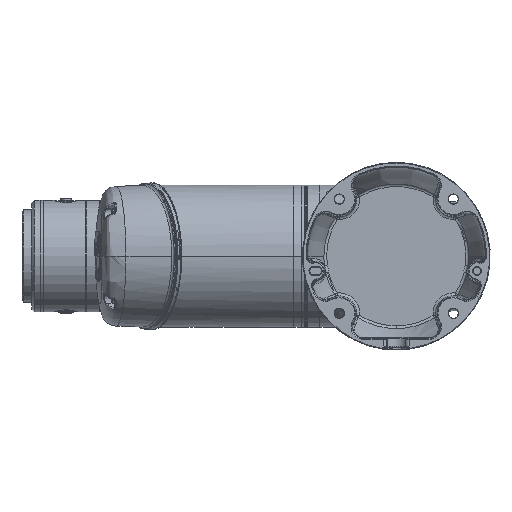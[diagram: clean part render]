
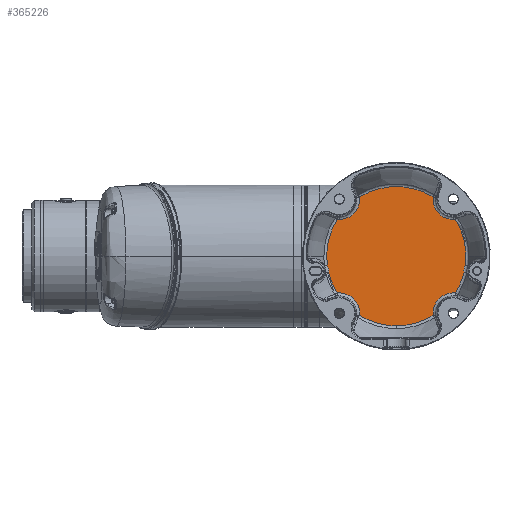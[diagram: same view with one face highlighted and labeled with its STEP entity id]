
A CAD part, front view. The second image highlights one B-rep face of the part: STEP entity #365226.
In plain terms, the highlighted planar face has unit normal (0, -1, 0).
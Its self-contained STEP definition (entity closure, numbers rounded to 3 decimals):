
#360 = CIRCLE ( 'NONE', #270757, 13.899 ) ;
#2383 = VERTEX_POINT ( 'NONE', #306100 ) ;
#6561 = AXIS2_PLACEMENT_3D ( 'NONE', #166688, #466886, #353194 ) ;
#7295 = CARTESIAN_POINT ( 'NONE',  ( -55., 53.5, -10. ) ) ;
#24731 = CIRCLE ( 'NONE', #206046, 8.899 ) ;
#29071 = VERTEX_POINT ( 'NONE', #139984 ) ;
#50845 = CARTESIAN_POINT ( 'NONE',  ( 55., 53.5, -10. ) ) ;
#59967 = DIRECTION ( 'NONE',  ( 0., -1., 0. ) ) ;
#63369 = EDGE_CURVE ( 'NONE', #351116, #29071, #410674, .T. ) ;
#66236 = CIRCLE ( 'NONE', #91622, 13.899 ) ;
#66815 = CARTESIAN_POINT ( 'NONE',  ( -25.062, 53.5, -40.292 ) ) ;
#88908 = EDGE_CURVE ( 'NONE', #144137, #278789, #333123, .T. ) ;
#91622 = AXIS2_PLACEMENT_3D ( 'NONE', #263240, #189030, #259982 ) ;
#94265 = CARTESIAN_POINT ( 'NONE',  ( 38.891, 53.5, 24.992 ) ) ;
#98722 = ORIENTED_EDGE ( 'NONE', *, *, #276287, .T. ) ;
#100998 = CARTESIAN_POINT ( 'NONE',  ( 0., 53.5, 0. ) ) ;
#106171 = DIRECTION ( 'NONE',  ( 0., 0., -1. ) ) ;
#118395 = DIRECTION ( 'NONE',  ( 0., 1., 0. ) ) ;
#121427 = CIRCLE ( 'NONE', #424465, 47.451 ) ;
#126447 = ORIENTED_EDGE ( 'NONE', *, *, #63369, .T. ) ;
#129165 = DIRECTION ( 'NONE',  ( 0., -1., 0. ) ) ;
#130990 = VERTEX_POINT ( 'NONE', #438270 ) ;
#133452 = DIRECTION ( 'NONE',  ( 0., -1., 0. ) ) ;
#133871 = DIRECTION ( 'NONE',  ( 0., 1., 0. ) ) ;
#134061 = DIRECTION ( 'NONE',  ( 0., 0., -1. ) ) ;
#139984 = CARTESIAN_POINT ( 'NONE',  ( -25.062, 53.5, 40.292 ) ) ;
#144137 = VERTEX_POINT ( 'NONE', #284946 ) ;
#152430 = AXIS2_PLACEMENT_3D ( 'NONE', #344385, #118395, #382334 ) ;
#157237 = AXIS2_PLACEMENT_3D ( 'NONE', #100998, #396349, #134061 ) ;
#164494 = CARTESIAN_POINT ( 'NONE',  ( -38.891, 53.5, 38.891 ) ) ;
#164731 = CIRCLE ( 'NONE', #424669, 47.451 ) ;
#166542 = CIRCLE ( 'NONE', #6561, 13.899 ) ;
#166688 = CARTESIAN_POINT ( 'NONE',  ( 38.891, 53.5, -38.891 ) ) ;
#167558 = CARTESIAN_POINT ( 'NONE',  ( 0., 53.5, 0. ) ) ;
#169385 = DIRECTION ( 'NONE',  ( 0., 0., -1. ) ) ;
#169602 = ORIENTED_EDGE ( 'NONE', *, *, #281949, .T. ) ;
#170152 = DIRECTION ( 'NONE',  ( 0., 0., -1. ) ) ;
#170472 = CARTESIAN_POINT ( 'NONE',  ( 0., 53.5, 0. ) ) ;
#174820 = VERTEX_POINT ( 'NONE', #94265 ) ;
#182752 = CIRCLE ( 'NONE', #251742, 47.451 ) ;
#189030 = DIRECTION ( 'NONE',  ( 0., 1., 0. ) ) ;
#189163 = DIRECTION ( 'NONE',  ( 0., 0., -1. ) ) ;
#202520 = EDGE_CURVE ( 'NONE', #235149, #174820, #390183, .T. ) ;
#203347 = CARTESIAN_POINT ( 'NONE',  ( 0., 53.5, 0. ) ) ;
#206046 = AXIS2_PLACEMENT_3D ( 'NONE', #50845, #352679, #169385 ) ;
#206139 = CARTESIAN_POINT ( 'NONE',  ( -38.891, 53.5, 38.891 ) ) ;
#207850 = AXIS2_PLACEMENT_3D ( 'NONE', #415188, #420075, #189163 ) ;
#208365 = DIRECTION ( 'NONE',  ( 0., 0., -1. ) ) ;
#208725 = CARTESIAN_POINT ( 'NONE',  ( 0., 53.5, -47.451 ) ) ;
#214852 = VERTEX_POINT ( 'NONE', #301229 ) ;
#217889 = EDGE_CURVE ( 'NONE', #214852, #235149, #305138, .T. ) ;
#220823 = EDGE_CURVE ( 'NONE', #174820, #351116, #66236, .T. ) ;
#221118 = ORIENTED_EDGE ( 'NONE', *, *, #439455, .T. ) ;
#222377 = EDGE_CURVE ( 'NONE', #322488, #453713, #166542, .T. ) ;
#226140 = ORIENTED_EDGE ( 'NONE', *, *, #260788, .T. ) ;
#226835 = ORIENTED_EDGE ( 'NONE', *, *, #220823, .T. ) ;
#228224 = ORIENTED_EDGE ( 'NONE', *, *, #217889, .T. ) ;
#230463 = EDGE_CURVE ( 'NONE', #384457, #384185, #164731, .T. ) ;
#230810 = CARTESIAN_POINT ( 'NONE',  ( 25.062, 53.5, 40.292 ) ) ;
#235149 = VERTEX_POINT ( 'NONE', #457978 ) ;
#235705 = ORIENTED_EDGE ( 'NONE', *, *, #230463, .T. ) ;
#243924 = PLANE ( 'NONE',  #409373 ) ;
#249811 = CARTESIAN_POINT ( 'NONE',  ( -47.077, 53.5, -5.948 ) ) ;
#251742 = AXIS2_PLACEMENT_3D ( 'NONE', #256181, #332085, #106171 ) ;
#253366 = EDGE_CURVE ( 'NONE', #2383, #214852, #24731, .T. ) ;
#254828 = CIRCLE ( 'NONE', #372427, 13.899 ) ;
#256181 = CARTESIAN_POINT ( 'NONE',  ( 0., 53.5, 0. ) ) ;
#259982 = DIRECTION ( 'NONE',  ( 0., 0., -1. ) ) ;
#260416 = DIRECTION ( 'NONE',  ( 0., 0., -1. ) ) ;
#260788 = EDGE_CURVE ( 'NONE', #453713, #2383, #182752, .T. ) ;
#261069 = AXIS2_PLACEMENT_3D ( 'NONE', #7295, #384854, #346930 ) ;
#263240 = CARTESIAN_POINT ( 'NONE',  ( 38.891, 53.5, 38.891 ) ) ;
#270757 = AXIS2_PLACEMENT_3D ( 'NONE', #206139, #315169, #353136 ) ;
#276287 = EDGE_CURVE ( 'NONE', #130990, #298034, #121427, .T. ) ;
#277250 = CARTESIAN_POINT ( 'NONE',  ( 40.292, 53.5, -25.062 ) ) ;
#278789 = VERTEX_POINT ( 'NONE', #249811 ) ;
#281361 = DIRECTION ( 'NONE',  ( 0., -1., 0. ) ) ;
#281949 = EDGE_CURVE ( 'NONE', #278789, #130990, #291293, .T. ) ;
#284946 = CARTESIAN_POINT ( 'NONE',  ( -40.292, 53.5, 25.062 ) ) ;
#291293 = CIRCLE ( 'NONE', #261069, 8.899 ) ;
#298034 = VERTEX_POINT ( 'NONE', #398210 ) ;
#301229 = CARTESIAN_POINT ( 'NONE',  ( 47.077, 53.5, -5.948 ) ) ;
#301938 = EDGE_CURVE ( 'NONE', #29071, #463807, #434889, .T. ) ;
#305138 = CIRCLE ( 'NONE', #207850, 47.451 ) ;
#306100 = CARTESIAN_POINT ( 'NONE',  ( 46.158, 53.5, -11.004 ) ) ;
#309707 = EDGE_LOOP ( 'NONE', ( #475776, #226140, #360339, #228224, #337167, #226835, #126447, #431356, #331790, #316029, #169602, #98722, #364659, #235705, #221118 ) ) ;
#315169 = DIRECTION ( 'NONE',  ( 0., 1., 0. ) ) ;
#316029 = ORIENTED_EDGE ( 'NONE', *, *, #88908, .T. ) ;
#320245 = CARTESIAN_POINT ( 'NONE',  ( -38.891, 53.5, -38.891 ) ) ;
#320369 = DIRECTION ( 'NONE',  ( 0., 0., -1. ) ) ;
#322488 = VERTEX_POINT ( 'NONE', #388469 ) ;
#331790 = ORIENTED_EDGE ( 'NONE', *, *, #344737, .T. ) ;
#332085 = DIRECTION ( 'NONE',  ( 0., -1., 0. ) ) ;
#333123 = CIRCLE ( 'NONE', #403885, 47.451 ) ;
#337167 = ORIENTED_EDGE ( 'NONE', *, *, #202520, .T. ) ;
#339548 = AXIS2_PLACEMENT_3D ( 'NONE', #355551, #350746, #390287 ) ;
#344385 = CARTESIAN_POINT ( 'NONE',  ( 38.891, 53.5, 38.891 ) ) ;
#344737 = EDGE_CURVE ( 'NONE', #463807, #144137, #360, .T. ) ;
#346930 = DIRECTION ( 'NONE',  ( 0., 0., -1. ) ) ;
#350746 = DIRECTION ( 'NONE',  ( 0., -1., 0. ) ) ;
#351116 = VERTEX_POINT ( 'NONE', #230810 ) ;
#352679 = DIRECTION ( 'NONE',  ( 0., 1., 0. ) ) ;
#353136 = DIRECTION ( 'NONE',  ( 0., 0., -1. ) ) ;
#353194 = DIRECTION ( 'NONE',  ( 0., 0., -1. ) ) ;
#355551 = CARTESIAN_POINT ( 'NONE',  ( 0., 53.5, 0. ) ) ;
#360339 = ORIENTED_EDGE ( 'NONE', *, *, #253366, .T. ) ;
#361840 = AXIS2_PLACEMENT_3D ( 'NONE', #164494, #428420, #260416 ) ;
#364659 = ORIENTED_EDGE ( 'NONE', *, *, #464473, .T. ) ;
#365226 = ADVANCED_FACE ( 'NONE', ( #426653 ), #243924, .T. ) ;
#372427 = AXIS2_PLACEMENT_3D ( 'NONE', #320245, #133871, #170152 ) ;
#382334 = DIRECTION ( 'NONE',  ( 0., 0., -1. ) ) ;
#384185 = VERTEX_POINT ( 'NONE', #208725 ) ;
#384457 = VERTEX_POINT ( 'NONE', #66815 ) ;
#384854 = DIRECTION ( 'NONE',  ( 0., 1., 0. ) ) ;
#388469 = CARTESIAN_POINT ( 'NONE',  ( 25.062, 53.5, -40.292 ) ) ;
#390183 = CIRCLE ( 'NONE', #152430, 13.899 ) ;
#390287 = DIRECTION ( 'NONE',  ( 0., 0., -1. ) ) ;
#396349 = DIRECTION ( 'NONE',  ( 0., -1., 0. ) ) ;
#398210 = CARTESIAN_POINT ( 'NONE',  ( -40.292, 53.5, -25.062 ) ) ;
#403885 = AXIS2_PLACEMENT_3D ( 'NONE', #170472, #59967, #208365 ) ;
#409373 = AXIS2_PLACEMENT_3D ( 'NONE', #473118, #133452, #433621 ) ;
#410674 = CIRCLE ( 'NONE', #339548, 47.451 ) ;
#415188 = CARTESIAN_POINT ( 'NONE',  ( 0., 53.5, 0. ) ) ;
#420075 = DIRECTION ( 'NONE',  ( 0., -1., 0. ) ) ;
#424465 = AXIS2_PLACEMENT_3D ( 'NONE', #203347, #129165, #320369 ) ;
#424669 = AXIS2_PLACEMENT_3D ( 'NONE', #167558, #281361, #426677 ) ;
#426653 = FACE_OUTER_BOUND ( 'NONE', #309707, .T. ) ;
#426677 = DIRECTION ( 'NONE',  ( 0., 0., -1. ) ) ;
#427564 = CARTESIAN_POINT ( 'NONE',  ( -38.891, 53.5, 24.992 ) ) ;
#428420 = DIRECTION ( 'NONE',  ( 0., 1., 0. ) ) ;
#431356 = ORIENTED_EDGE ( 'NONE', *, *, #301938, .T. ) ;
#433621 = DIRECTION ( 'NONE',  ( 0., 0., -1. ) ) ;
#434889 = CIRCLE ( 'NONE', #361840, 13.899 ) ;
#438270 = CARTESIAN_POINT ( 'NONE',  ( -46.158, 53.5, -11.004 ) ) ;
#439455 = EDGE_CURVE ( 'NONE', #384185, #322488, #443353, .T. ) ;
#443353 = CIRCLE ( 'NONE', #157237, 47.451 ) ;
#453713 = VERTEX_POINT ( 'NONE', #277250 ) ;
#457978 = CARTESIAN_POINT ( 'NONE',  ( 40.292, 53.5, 25.062 ) ) ;
#463807 = VERTEX_POINT ( 'NONE', #427564 ) ;
#464473 = EDGE_CURVE ( 'NONE', #298034, #384457, #254828, .T. ) ;
#466886 = DIRECTION ( 'NONE',  ( 0., 1., 0. ) ) ;
#473118 = CARTESIAN_POINT ( 'NONE',  ( 0., 53.5, 0. ) ) ;
#475776 = ORIENTED_EDGE ( 'NONE', *, *, #222377, .T. ) ;
